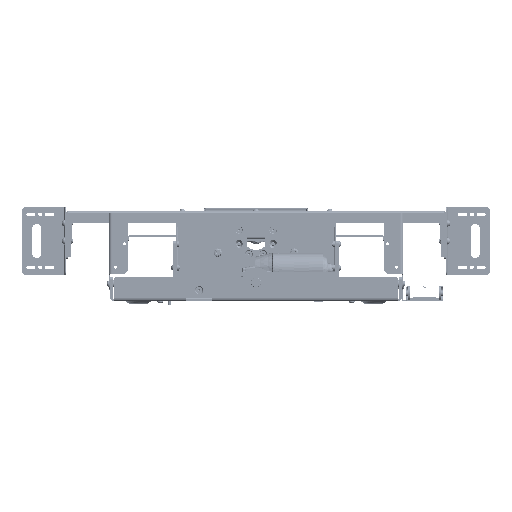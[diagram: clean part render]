
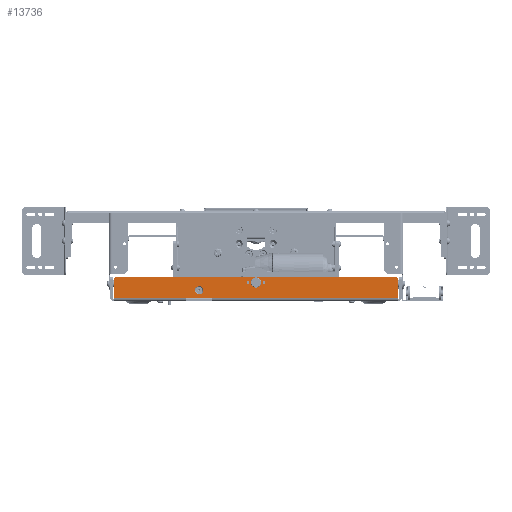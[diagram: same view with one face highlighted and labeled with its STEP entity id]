
A CAD part, front view. The second image highlights one B-rep face of the part: STEP entity #13736.
In plain terms, the highlighted planar face has unit normal (0, -1, 0).
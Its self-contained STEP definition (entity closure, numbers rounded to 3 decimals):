
#5030 = DIRECTION ( 'NONE',  ( 0., 0., 1. ) ) ;
#10216 = VERTEX_POINT ( 'NONE', #141480 ) ;
#11872 = CIRCLE ( 'NONE', #113879, 8.6 ) ;
#12619 = DIRECTION ( 'NONE',  ( 0., 0., 1. ) ) ;
#13736 = ADVANCED_FACE ( 'NONE', ( #126675, #26295, #81939, #137670, #41792 ), #97412, .F. ) ;
#14945 = VECTOR ( 'NONE', #96899, 1000. ) ;
#17781 = EDGE_CURVE ( 'NONE', #74652, #130127, #99616, .T. ) ;
#18402 = CARTESIAN_POINT ( 'NONE',  ( -241.3, -6.2, 42. ) ) ;
#20889 = EDGE_CURVE ( 'NONE', #10216, #169289, #163511, .T. ) ;
#21684 = CARTESIAN_POINT ( 'NONE',  ( 0., -6.2, 40.6 ) ) ;
#23503 = CARTESIAN_POINT ( 'NONE',  ( -236.3, -6.2, 37. ) ) ;
#24921 = CARTESIAN_POINT ( 'NONE',  ( 241.3, -6.2, 42. ) ) ;
#25938 = VECTOR ( 'NONE', #144528, 1000. ) ;
#26295 = FACE_BOUND ( 'NONE', #80896, .T. ) ;
#28892 = VERTEX_POINT ( 'NONE', #93816 ) ;
#33340 = DIRECTION ( 'NONE',  ( 0., 1., 0. ) ) ;
#34297 = ORIENTED_EDGE ( 'NONE', *, *, #172917, .F. ) ;
#34604 = DIRECTION ( 'NONE',  ( 0., 0., 1. ) ) ;
#37743 = DIRECTION ( 'NONE',  ( 0., 0., 1. ) ) ;
#40186 = ORIENTED_EDGE ( 'NONE', *, *, #20889, .T. ) ;
#41792 = FACE_BOUND ( 'NONE', #93444, .T. ) ;
#41952 = DIRECTION ( 'NONE',  ( 0., -1., 0. ) ) ;
#44023 = DIRECTION ( 'NONE',  ( 0., 0., 1. ) ) ;
#45481 = ORIENTED_EDGE ( 'NONE', *, *, #124193, .F. ) ;
#45526 = VERTEX_POINT ( 'NONE', #87440 ) ;
#48291 = CARTESIAN_POINT ( 'NONE',  ( 13.5, -6.2, 32. ) ) ;
#54680 = VERTEX_POINT ( 'NONE', #165494 ) ;
#55416 = EDGE_LOOP ( 'NONE', ( #143114, #40186, #78948, #128301, #85612, #60455, #45481, #147352 ) ) ;
#59012 = EDGE_CURVE ( 'NONE', #169289, #28892, #172866, .T. ) ;
#59221 = EDGE_CURVE ( 'NONE', #54680, #10216, #94268, .T. ) ;
#59370 = ORIENTED_EDGE ( 'NONE', *, *, #167552, .T. ) ;
#60455 = ORIENTED_EDGE ( 'NONE', *, *, #159918, .F. ) ;
#61998 = AXIS2_PLACEMENT_3D ( 'NONE', #23503, #122944, #69077 ) ;
#63613 = VERTEX_POINT ( 'NONE', #111065 ) ;
#69077 = DIRECTION ( 'NONE',  ( 0., 0., 1. ) ) ;
#69262 = EDGE_CURVE ( 'NONE', #95691, #95691, #133662, .T. ) ;
#69659 = VECTOR ( 'NONE', #81717, 1000. ) ;
#72319 = CARTESIAN_POINT ( 'NONE',  ( 236.3, -6.2, 37. ) ) ;
#74652 = VERTEX_POINT ( 'NONE', #166016 ) ;
#76244 = VERTEX_POINT ( 'NONE', #157004 ) ;
#76830 = CIRCLE ( 'NONE', #82587, 7. ) ;
#78639 = EDGE_CURVE ( 'NONE', #45526, #45526, #131785, .T. ) ;
#78948 = ORIENTED_EDGE ( 'NONE', *, *, #59012, .T. ) ;
#80896 = EDGE_LOOP ( 'NONE', ( #90559 ) ) ;
#81373 = DIRECTION ( 'NONE',  ( 0., 0., 1. ) ) ;
#81717 = DIRECTION ( 'NONE',  ( -1., 0., 0. ) ) ;
#81939 = FACE_BOUND ( 'NONE', #90277, .T. ) ;
#82587 = AXIS2_PLACEMENT_3D ( 'NONE', #167036, #41952, #96675 ) ;
#83164 = DIRECTION ( 'NONE',  ( 0., 1., 0. ) ) ;
#83740 = DIRECTION ( 'NONE',  ( 0., 1., 0. ) ) ;
#85091 = AXIS2_PLACEMENT_3D ( 'NONE', #48291, #103906, #34604 ) ;
#85612 = ORIENTED_EDGE ( 'NONE', *, *, #17781, .T. ) ;
#86697 = ORIENTED_EDGE ( 'NONE', *, *, #69262, .T. ) ;
#86892 = AXIS2_PLACEMENT_3D ( 'NONE', #129231, #33340, #5030 ) ;
#87440 = CARTESIAN_POINT ( 'NONE',  ( 13.5, -6.2, 34.325 ) ) ;
#90277 = EDGE_LOOP ( 'NONE', ( #59370 ) ) ;
#90559 = ORIENTED_EDGE ( 'NONE', *, *, #78639, .T. ) ;
#93039 = EDGE_LOOP ( 'NONE', ( #86697 ) ) ;
#93444 = EDGE_LOOP ( 'NONE', ( #34297 ) ) ;
#93816 = CARTESIAN_POINT ( 'NONE',  ( -236.3, -6.2, 42. ) ) ;
#94057 = CIRCLE ( 'NONE', #61998, 5. ) ;
#94268 = LINE ( 'NONE', #24921, #160308 ) ;
#95691 = VERTEX_POINT ( 'NONE', #110301 ) ;
#96319 = LINE ( 'NONE', #123756, #179819 ) ;
#96675 = DIRECTION ( 'NONE',  ( 0., 0., -1. ) ) ;
#96899 = DIRECTION ( 'NONE',  ( -1., 0., 0. ) ) ;
#97412 = PLANE ( 'NONE',  #164004 ) ;
#98717 = DIRECTION ( 'NONE',  ( 0., 0., -1. ) ) ;
#99616 = LINE ( 'NONE', #18402, #139492 ) ;
#103906 = DIRECTION ( 'NONE',  ( 0., 1., 0. ) ) ;
#105526 = EDGE_CURVE ( 'NONE', #54680, #76244, #96319, .T. ) ;
#108028 = AXIS2_PLACEMENT_3D ( 'NONE', #72319, #128008, #44023 ) ;
#108794 = LINE ( 'NONE', #167258, #14945 ) ;
#110301 = CARTESIAN_POINT ( 'NONE',  ( -13.5, -6.2, 34.325 ) ) ;
#111065 = CARTESIAN_POINT ( 'NONE',  ( -119.1, -6.2, 6.2 ) ) ;
#113879 = AXIS2_PLACEMENT_3D ( 'NONE', #121592, #83164, #81373 ) ;
#117534 = VERTEX_POINT ( 'NONE', #21684 ) ;
#119368 = CARTESIAN_POINT ( 'NONE',  ( -241.3, -6.2, 6.2 ) ) ;
#121592 = CARTESIAN_POINT ( 'NONE',  ( 0., -6.2, 32. ) ) ;
#122944 = DIRECTION ( 'NONE',  ( 0., -1., 0. ) ) ;
#123756 = CARTESIAN_POINT ( 'NONE',  ( -241.3, -6.2, 6.2 ) ) ;
#124193 = EDGE_CURVE ( 'NONE', #76244, #63613, #139223, .T. ) ;
#126675 = FACE_BOUND ( 'NONE', #93039, .T. ) ;
#128008 = DIRECTION ( 'NONE',  ( 0., -1., 0. ) ) ;
#128301 = ORIENTED_EDGE ( 'NONE', *, *, #171591, .T. ) ;
#129231 = CARTESIAN_POINT ( 'NONE',  ( -13.5, -6.2, 32. ) ) ;
#130127 = VERTEX_POINT ( 'NONE', #119368 ) ;
#131785 = CIRCLE ( 'NONE', #85091, 2.325 ) ;
#133662 = CIRCLE ( 'NONE', #86892, 2.325 ) ;
#137670 = FACE_OUTER_BOUND ( 'NONE', #55416, .T. ) ;
#139223 = LINE ( 'NONE', #180326, #69659 ) ;
#139492 = VECTOR ( 'NONE', #98717, 1000. ) ;
#141480 = CARTESIAN_POINT ( 'NONE',  ( 241.3, -6.2, 37. ) ) ;
#143114 = ORIENTED_EDGE ( 'NONE', *, *, #59221, .T. ) ;
#144528 = DIRECTION ( 'NONE',  ( -1., 0., 0. ) ) ;
#147352 = ORIENTED_EDGE ( 'NONE', *, *, #105526, .F. ) ;
#150341 = VERTEX_POINT ( 'NONE', #175960 ) ;
#153140 = CARTESIAN_POINT ( 'NONE',  ( -241.3, -6.2, 42. ) ) ;
#154720 = DIRECTION ( 'NONE',  ( -1., 0., 0. ) ) ;
#157004 = CARTESIAN_POINT ( 'NONE',  ( -74.1, -6.2, 6.2 ) ) ;
#159918 = EDGE_CURVE ( 'NONE', #63613, #130127, #108794, .T. ) ;
#160308 = VECTOR ( 'NONE', #37743, 1000. ) ;
#163511 = CIRCLE ( 'NONE', #108028, 5. ) ;
#164004 = AXIS2_PLACEMENT_3D ( 'NONE', #153140, #83740, #12619 ) ;
#164128 = CARTESIAN_POINT ( 'NONE',  ( 236.3, -6.2, 42. ) ) ;
#165494 = CARTESIAN_POINT ( 'NONE',  ( 241.3, -6.2, 6.2 ) ) ;
#166016 = CARTESIAN_POINT ( 'NONE',  ( -241.3, -6.2, 37. ) ) ;
#167036 = CARTESIAN_POINT ( 'NONE',  ( -96.6, -6.2, 18.7 ) ) ;
#167258 = CARTESIAN_POINT ( 'NONE',  ( -241.3, -6.2, 6.2 ) ) ;
#167552 = EDGE_CURVE ( 'NONE', #117534, #117534, #11872, .T. ) ;
#169289 = VERTEX_POINT ( 'NONE', #164128 ) ;
#171591 = EDGE_CURVE ( 'NONE', #28892, #74652, #94057, .T. ) ;
#171965 = CARTESIAN_POINT ( 'NONE',  ( -241.3, -6.2, 42. ) ) ;
#172866 = LINE ( 'NONE', #171965, #25938 ) ;
#172917 = EDGE_CURVE ( 'NONE', #150341, #150341, #76830, .T. ) ;
#175960 = CARTESIAN_POINT ( 'NONE',  ( -96.6, -6.2, 11.7 ) ) ;
#179819 = VECTOR ( 'NONE', #154720, 1000. ) ;
#180326 = CARTESIAN_POINT ( 'NONE',  ( -119.1, -6.2, 6.2 ) ) ;
